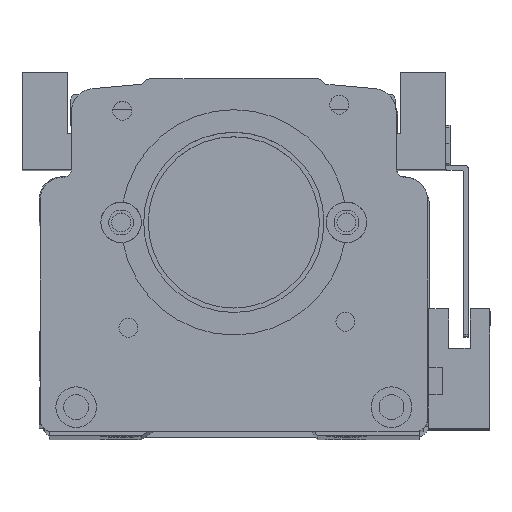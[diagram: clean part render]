
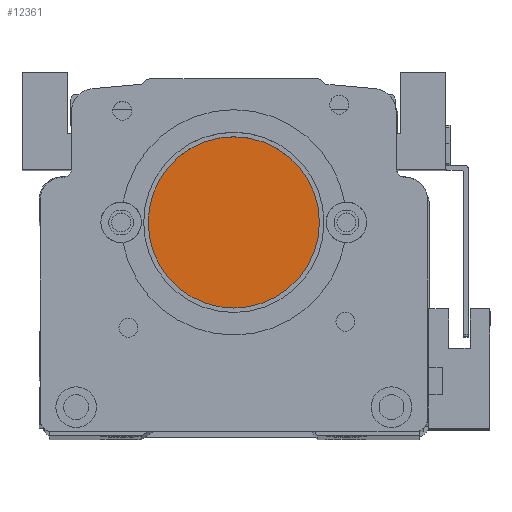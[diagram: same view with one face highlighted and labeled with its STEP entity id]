
A CAD part, top view. The second image highlights one B-rep face of the part: STEP entity #12361.
In plain terms, the highlighted planar face has unit normal (0, 0, 1) as drawn and (0, 0, -1) by its records, which use the part's own axes.
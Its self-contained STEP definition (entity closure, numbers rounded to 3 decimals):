
#518 = CARTESIAN_POINT ( 'NONE',  ( 11., 39., 5. ) ) ;
#1258 = EDGE_LOOP ( 'NONE', ( #16032, #12208 ) ) ;
#3770 = VERTEX_POINT ( 'NONE', #12630 ) ;
#3947 = AXIS2_PLACEMENT_3D ( 'NONE', #6199, #17665, #7830 ) ;
#4299 = CARTESIAN_POINT ( 'NONE',  ( 30., 39., 5. ) ) ;
#5261 = PLANE ( 'NONE',  #13170 ) ;
#5324 = CARTESIAN_POINT ( 'NONE',  ( 30., 39., 5. ) ) ;
#5953 = DIRECTION ( 'NONE',  ( -1., 0., 0. ) ) ;
#6142 = VERTEX_POINT ( 'NONE', #518 ) ;
#6199 = CARTESIAN_POINT ( 'NONE',  ( 30., 39., 5. ) ) ;
#6701 = CIRCLE ( 'NONE', #3947, 19. ) ;
#7830 = DIRECTION ( 'NONE',  ( -1., 0., 0. ) ) ;
#8611 = DIRECTION ( 'NONE',  ( 0., 0., -1. ) ) ;
#10801 = CIRCLE ( 'NONE', #20903, 19. ) ;
#12208 = ORIENTED_EDGE ( 'NONE', *, *, #13504, .T. ) ;
#12361 = ADVANCED_FACE ( 'NONE', ( #16391 ), #5261, .T. ) ;
#12630 = CARTESIAN_POINT ( 'NONE',  ( 49., 39., 5. ) ) ;
#13170 = AXIS2_PLACEMENT_3D ( 'NONE', #5324, #8611, #20111 ) ;
#13504 = EDGE_CURVE ( 'NONE', #3770, #6142, #10801, .T. ) ;
#15784 = DIRECTION ( 'NONE',  ( 0., 0., -1. ) ) ;
#16032 = ORIENTED_EDGE ( 'NONE', *, *, #17597, .T. ) ;
#16391 = FACE_OUTER_BOUND ( 'NONE', #1258, .T. ) ;
#17597 = EDGE_CURVE ( 'NONE', #6142, #3770, #6701, .T. ) ;
#17665 = DIRECTION ( 'NONE',  ( 0., 0., -1. ) ) ;
#20111 = DIRECTION ( 'NONE',  ( -1., 0., 0. ) ) ;
#20903 = AXIS2_PLACEMENT_3D ( 'NONE', #4299, #15784, #5953 ) ;
